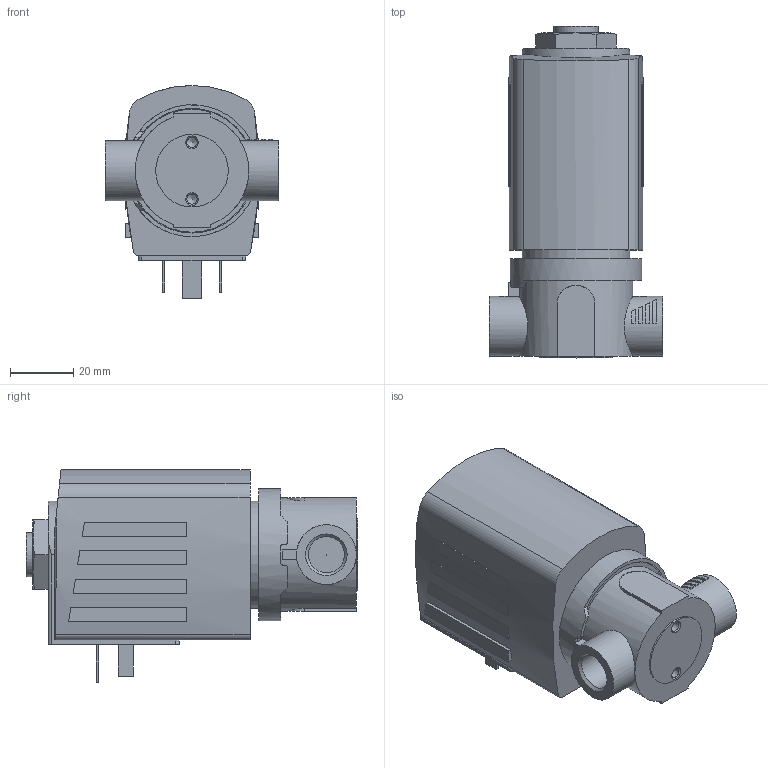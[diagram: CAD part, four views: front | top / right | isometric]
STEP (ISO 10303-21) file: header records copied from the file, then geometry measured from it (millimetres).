
FILE_DESCRIPTION(/* description */ ('STEP AP214'),/* implementation_level */ '2;1');
FILE_NAME(/* name */ '6027-A-5-FKM___FKM-VA-G_1_4-42-230-240___AC',/* time_stamp */ '2024-03-18T21:27:15+01:00',/* author */ ('License CC BY-ND 4.0'),/* organization */ ('CADENAS'),/* preprocessor_version */ 'ST-DEVELOPER v19.3',/* originating_system */ 'PARTsolutions',/* authorisation */ ' ');
FILE_SCHEMA (('AUTOMOTIVE_DESIGN {1 0 10303 214 3 1 1}'));
Length unit declared in the file: millimetre
Products named in the file (3): 6027-A-5-FKM / FKM-VA-G 1/4-42-230-240 / AC; AC10ex-42SG=k-Plan-Coil; V027-Gehaeuse G 1/4 1 1 VA G55 4 1
Assembly tree (2 placements, depth 2):
  6027-A-5-FKM / FKM-VA-G 1/4-42-230-240 / AC
    AC10ex-42SG=k-Plan-Coil
    V027-Gehaeuse G 1/4 1 1 VA G55 4 1
Bounding box: 55 x 105.2 x 67.5 mm (x, y, z)
Volume: 178163.2 mm3; surface area: 27135.6 mm2
Topology: 2 solids, 2 shells, 170 faces, 411 edges, 269 vertices
Faces by surface type: plane 118, cylinder 39, cone 13
Full cylindrical faces by diameter (mm): 0.2 x1, 2.013 x1, 3.242 x2, 11.445 x2, 14 x1, 19 x2, 23 x1, 34 x1, 36 x1, 39 x1, 39.5 x1, 41.8 x1
Entity records: 5591 total; most frequent: CARTESIAN_POINT 953, DIRECTION 819, ORIENTED_EDGE 760, EDGE_CURVE 380, AXIS2_PLACEMENT_3D 297, VERTEX_POINT 262, LINE 225, VECTOR 225
